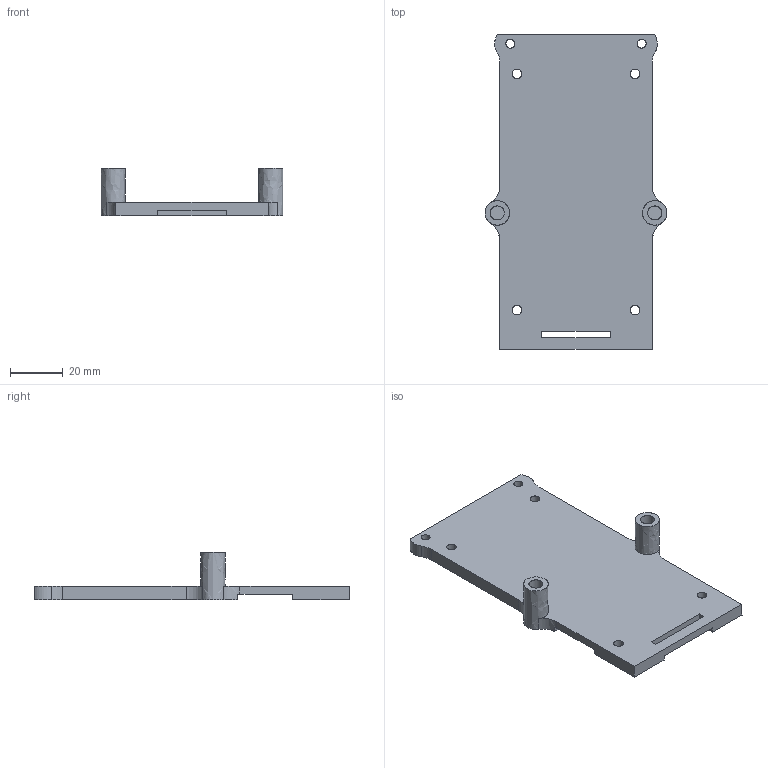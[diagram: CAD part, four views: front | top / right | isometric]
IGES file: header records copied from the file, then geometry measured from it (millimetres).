
Global section: file name: C:\Users\gehrichcr\Documents\1 Drive Backup\Practice\Inspire\V1.5\IGES\Canopy Tail V1.5.igs; native system: NX V8.5; preprocessor: SIEMENS PLM Software NX 8.5; date: 20150605.143148; units: millimetre
Bounding box: 69.3 x 120 x 18 mm (x, y, z)
Surface area: 17654 mm2 (no closed solid volume)
Topology: 0 solids, 0 shells, 45 faces, 423 edges, 414 vertices
Faces by surface type: bspline 45
